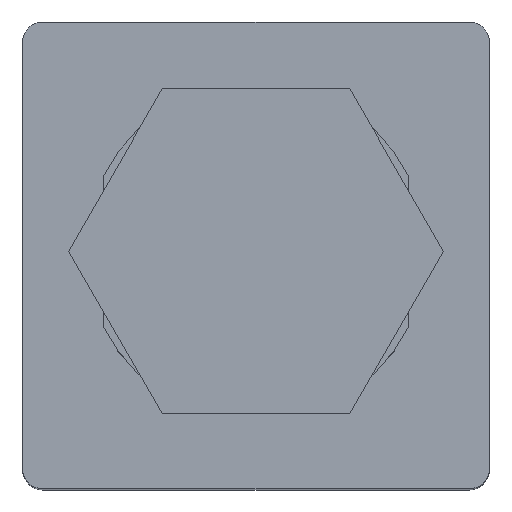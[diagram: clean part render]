
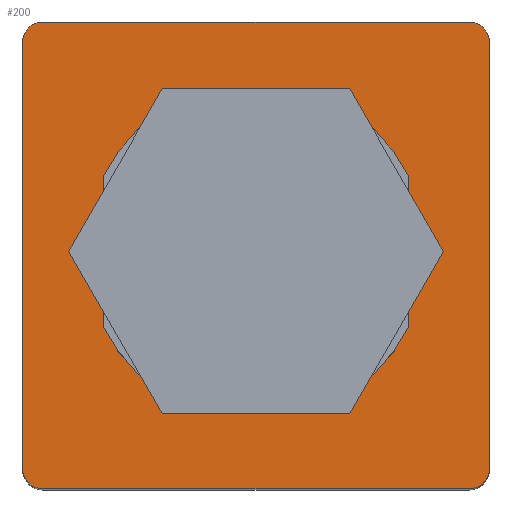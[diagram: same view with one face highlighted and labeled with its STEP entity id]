
A CAD part, top view. The second image highlights one B-rep face of the part: STEP entity #200.
In plain terms, the highlighted planar face has unit normal (0, 0, 1) as drawn and (0, 0, -1) by its records, which use the part's own axes.
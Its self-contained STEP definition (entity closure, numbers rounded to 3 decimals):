
#200 = ADVANCED_FACE( '', ( #428, #429 ), #430, .F. );
#428 = FACE_BOUND( '', #684, .T. );
#429 = FACE_OUTER_BOUND( '', #685, .T. );
#430 = PLANE( '', #686 );
#684 = EDGE_LOOP( '', ( #1057 ) );
#685 = EDGE_LOOP( '', ( #1058, #1059, #1060, #1061, #1062, #1063, #1064, #1065 ) );
#686 = AXIS2_PLACEMENT_3D( '', #1066, #1067, #1068 );
#1057 = ORIENTED_EDGE( '', *, *, #1432, .T. );
#1058 = ORIENTED_EDGE( '', *, *, #1403, .F. );
#1059 = ORIENTED_EDGE( '', *, *, #1491, .F. );
#1060 = ORIENTED_EDGE( '', *, *, #1492, .F. );
#1061 = ORIENTED_EDGE( '', *, *, #1459, .F. );
#1062 = ORIENTED_EDGE( '', *, *, #1493, .F. );
#1063 = ORIENTED_EDGE( '', *, *, #1494, .F. );
#1064 = ORIENTED_EDGE( '', *, *, #1495, .F. );
#1065 = ORIENTED_EDGE( '', *, *, #1496, .F. );
#1066 = CARTESIAN_POINT( '', ( -21., 21., -70. ) );
#1067 = DIRECTION( '', ( 0., 0., 1. ) );
#1068 = DIRECTION( '', ( 1., 0., 0. ) );
#1403 = EDGE_CURVE( '', #1634, #1636, #1637, .T. );
#1432 = EDGE_CURVE( '', #1683, #1683, #1684, .T. );
#1459 = EDGE_CURVE( '', #1727, #1729, #1730, .T. );
#1491 = EDGE_CURVE( '', #1777, #1634, #1778, .T. );
#1492 = EDGE_CURVE( '', #1729, #1777, #1779, .T. );
#1493 = EDGE_CURVE( '', #1780, #1727, #1781, .T. );
#1494 = EDGE_CURVE( '', #1782, #1780, #1783, .T. );
#1495 = EDGE_CURVE( '', #1784, #1782, #1785, .T. );
#1496 = EDGE_CURVE( '', #1636, #1784, #1786, .T. );
#1634 = VERTEX_POINT( '', #1956 );
#1636 = VERTEX_POINT( '', #1959 );
#1637 = CIRCLE( '', #1960, 2. );
#1683 = VERTEX_POINT( '', #2019 );
#1684 = CIRCLE( '', #2020, 13.9 );
#1727 = VERTEX_POINT( '', #2073 );
#1729 = VERTEX_POINT( '', #2076 );
#1730 = LINE( '', #2077, #2078 );
#1777 = VERTEX_POINT( '', #2136 );
#1778 = LINE( '', #2137, #2138 );
#1779 = CIRCLE( '', #2139, 2. );
#1780 = VERTEX_POINT( '', #2140 );
#1781 = CIRCLE( '', #2141, 2. );
#1782 = VERTEX_POINT( '', #2142 );
#1783 = LINE( '', #2143, #2144 );
#1784 = VERTEX_POINT( '', #2145 );
#1785 = CIRCLE( '', #2146, 2. );
#1786 = LINE( '', #2147, #2148 );
#1956 = CARTESIAN_POINT( '', ( -21., 23., -70. ) );
#1959 = CARTESIAN_POINT( '', ( -23., 21., -70. ) );
#1960 = AXIS2_PLACEMENT_3D( '', #2316, #2317, #2318 );
#2019 = CARTESIAN_POINT( '', ( 13.9, 0., -70. ) );
#2020 = AXIS2_PLACEMENT_3D( '', #2353, #2354, #2355 );
#2073 = CARTESIAN_POINT( '', ( 23., -21., -70. ) );
#2076 = CARTESIAN_POINT( '', ( 23., 21., -70. ) );
#2077 = CARTESIAN_POINT( '', ( 23., -21., -70. ) );
#2078 = VECTOR( '', #2400, 1000. );
#2136 = CARTESIAN_POINT( '', ( 21., 23., -70. ) );
#2137 = CARTESIAN_POINT( '', ( 21., 23., -70. ) );
#2138 = VECTOR( '', #2442, 1000. );
#2139 = AXIS2_PLACEMENT_3D( '', #2443, #2444, #2445 );
#2140 = CARTESIAN_POINT( '', ( 21., -23., -70. ) );
#2141 = AXIS2_PLACEMENT_3D( '', #2446, #2447, #2448 );
#2142 = CARTESIAN_POINT( '', ( -21., -23., -70. ) );
#2143 = CARTESIAN_POINT( '', ( -21., -23., -70. ) );
#2144 = VECTOR( '', #2449, 1000. );
#2145 = CARTESIAN_POINT( '', ( -23., -21., -70. ) );
#2146 = AXIS2_PLACEMENT_3D( '', #2450, #2451, #2452 );
#2147 = CARTESIAN_POINT( '', ( -23., 21., -70. ) );
#2148 = VECTOR( '', #2453, 1000. );
#2316 = CARTESIAN_POINT( '', ( -21., 21., -70. ) );
#2317 = DIRECTION( '', ( 0., 0., 1. ) );
#2318 = DIRECTION( '', ( 1., 0., 0. ) );
#2353 = CARTESIAN_POINT( '', ( 0., 0., -70. ) );
#2354 = DIRECTION( '', ( 0., 0., 1. ) );
#2355 = DIRECTION( '', ( 1., 0., 0. ) );
#2400 = DIRECTION( '', ( 0., 1., 0. ) );
#2442 = DIRECTION( '', ( -1., 0., 0. ) );
#2443 = CARTESIAN_POINT( '', ( 21., 21., -70. ) );
#2444 = DIRECTION( '', ( 0., 0., 1. ) );
#2445 = DIRECTION( '', ( 1., 0., 0. ) );
#2446 = CARTESIAN_POINT( '', ( 21., -21., -70. ) );
#2447 = DIRECTION( '', ( 0., 0., 1. ) );
#2448 = DIRECTION( '', ( 1., 0., 0. ) );
#2449 = DIRECTION( '', ( 1., 0., 0. ) );
#2450 = CARTESIAN_POINT( '', ( -21., -21., -70. ) );
#2451 = DIRECTION( '', ( 0., 0., 1. ) );
#2452 = DIRECTION( '', ( 1., 0., 0. ) );
#2453 = DIRECTION( '', ( 0., -1., 0. ) );
